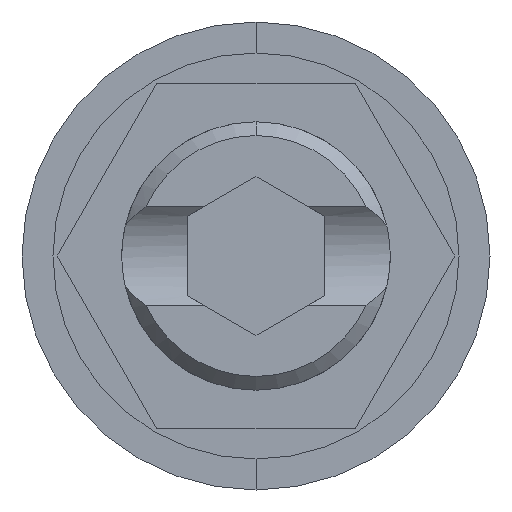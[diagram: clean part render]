
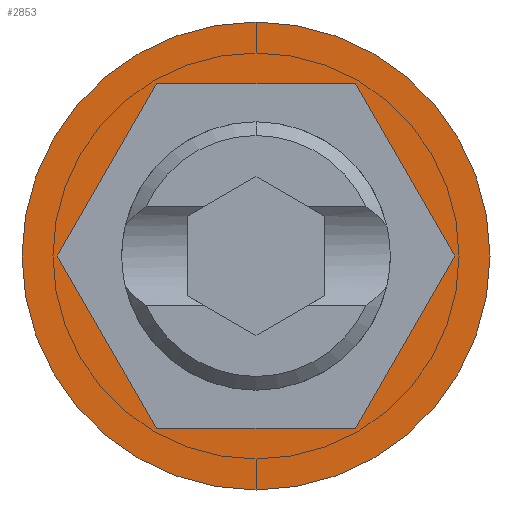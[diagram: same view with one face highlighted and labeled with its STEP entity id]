
A CAD part, front view. The second image highlights one B-rep face of the part: STEP entity #2853.
In plain terms, the highlighted planar face has unit normal (0, -1, 0).
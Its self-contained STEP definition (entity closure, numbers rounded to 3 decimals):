
#60 = VERTEX_POINT ( 'NONE', #2171 ) ;
#210 = AXIS2_PLACEMENT_3D ( 'NONE', #719, #1042, #3409 ) ;
#237 = VECTOR ( 'NONE', #3009, 1000. ) ;
#312 = LINE ( 'NONE', #2729, #3781 ) ;
#422 = LINE ( 'NONE', #2084, #2165 ) ;
#448 = LINE ( 'NONE', #1752, #3880 ) ;
#719 = CARTESIAN_POINT ( 'NONE',  ( 0., 0., 0. ) ) ;
#843 = EDGE_LOOP ( 'NONE', ( #4173, #1502, #3107, #1312, #2997, #1858 ) ) ;
#852 = VECTOR ( 'NONE', #2980, 1000. ) ;
#865 = FACE_OUTER_BOUND ( 'NONE', #1455, .T. ) ;
#944 = EDGE_CURVE ( 'NONE', #4237, #1217, #3203, .T. ) ;
#993 = ORIENTED_EDGE ( 'NONE', *, *, #944, .T. ) ;
#1032 = EDGE_CURVE ( 'NONE', #3378, #60, #448, .T. ) ;
#1042 = DIRECTION ( 'NONE',  ( 0., -1., 0. ) ) ;
#1119 = LINE ( 'NONE', #3995, #237 ) ;
#1207 = CARTESIAN_POINT ( 'NONE',  ( -2.887, 0., 0. ) ) ;
#1217 = VERTEX_POINT ( 'NONE', #3945 ) ;
#1263 = LINE ( 'NONE', #4248, #3754 ) ;
#1312 = ORIENTED_EDGE ( 'NONE', *, *, #2063, .F. ) ;
#1341 = DIRECTION ( 'NONE',  ( 0., -1., 0. ) ) ;
#1346 = CARTESIAN_POINT ( 'NONE',  ( 1.443, 0., 2.5 ) ) ;
#1445 = DIRECTION ( 'NONE',  ( -1., 0., 0. ) ) ;
#1455 = EDGE_LOOP ( 'NONE', ( #993, #2680 ) ) ;
#1498 = VERTEX_POINT ( 'NONE', #4068 ) ;
#1502 = ORIENTED_EDGE ( 'NONE', *, *, #1032, .F. ) ;
#1628 = CARTESIAN_POINT ( 'NONE',  ( 0., 0., -3.4 ) ) ;
#1752 = CARTESIAN_POINT ( 'NONE',  ( -2.887, 0., 0. ) ) ;
#1785 = VERTEX_POINT ( 'NONE', #1346 ) ;
#1826 = CIRCLE ( 'NONE', #3045, 3.4 ) ;
#1858 = ORIENTED_EDGE ( 'NONE', *, *, #2694, .F. ) ;
#1966 = DIRECTION ( 'NONE',  ( 0.5, 0., 0.866 ) ) ;
#2063 = EDGE_CURVE ( 'NONE', #1785, #4186, #312, .T. ) ;
#2084 = CARTESIAN_POINT ( 'NONE',  ( 1.443, 0., -2.5 ) ) ;
#2165 = VECTOR ( 'NONE', #1966, 1000. ) ;
#2171 = CARTESIAN_POINT ( 'NONE',  ( -1.443, 0., -2.5 ) ) ;
#2189 = CARTESIAN_POINT ( 'NONE',  ( 0., 0., 0. ) ) ;
#2308 = DIRECTION ( 'NONE',  ( 0., -1., 0. ) ) ;
#2394 = VERTEX_POINT ( 'NONE', #3905 ) ;
#2412 = DIRECTION ( 'NONE',  ( 0., 0., -1. ) ) ;
#2680 = ORIENTED_EDGE ( 'NONE', *, *, #3838, .T. ) ;
#2694 = EDGE_CURVE ( 'NONE', #2394, #1498, #422, .T. ) ;
#2729 = CARTESIAN_POINT ( 'NONE',  ( 1.443, 0., 2.5 ) ) ;
#2853 = ADVANCED_FACE ( 'NONE', ( #3773, #865 ), #3056, .T. ) ;
#2980 = DIRECTION ( 'NONE',  ( -0.5, 0., -0.866 ) ) ;
#2997 = ORIENTED_EDGE ( 'NONE', *, *, #4283, .F. ) ;
#3009 = DIRECTION ( 'NONE',  ( -0.5, 0., 0.866 ) ) ;
#3045 = AXIS2_PLACEMENT_3D ( 'NONE', #3359, #1341, #3702 ) ;
#3056 = PLANE ( 'NONE',  #210 ) ;
#3107 = ORIENTED_EDGE ( 'NONE', *, *, #3749, .F. ) ;
#3203 = CIRCLE ( 'NONE', #4053, 3.4 ) ;
#3323 = CARTESIAN_POINT ( 'NONE',  ( -1.443, 0., 2.5 ) ) ;
#3359 = CARTESIAN_POINT ( 'NONE',  ( 0., 0., 0. ) ) ;
#3378 = VERTEX_POINT ( 'NONE', #1207 ) ;
#3409 = DIRECTION ( 'NONE',  ( 0., 0., -1. ) ) ;
#3547 = LINE ( 'NONE', #3323, #852 ) ;
#3594 = EDGE_CURVE ( 'NONE', #60, #2394, #1263, .T. ) ;
#3620 = DIRECTION ( 'NONE',  ( 1., 0., 0. ) ) ;
#3702 = DIRECTION ( 'NONE',  ( 0., 0., -1. ) ) ;
#3749 = EDGE_CURVE ( 'NONE', #4186, #3378, #3547, .T. ) ;
#3754 = VECTOR ( 'NONE', #3620, 1000. ) ;
#3773 = FACE_BOUND ( 'NONE', #843, .T. ) ;
#3781 = VECTOR ( 'NONE', #1445, 1000. ) ;
#3838 = EDGE_CURVE ( 'NONE', #1217, #4237, #1826, .T. ) ;
#3839 = DIRECTION ( 'NONE',  ( 0.5, 0., -0.866 ) ) ;
#3880 = VECTOR ( 'NONE', #3839, 1000. ) ;
#3905 = CARTESIAN_POINT ( 'NONE',  ( 1.443, 0., -2.5 ) ) ;
#3945 = CARTESIAN_POINT ( 'NONE',  ( 0., 0., 3.4 ) ) ;
#3995 = CARTESIAN_POINT ( 'NONE',  ( 2.887, 0., 0. ) ) ;
#4053 = AXIS2_PLACEMENT_3D ( 'NONE', #2189, #2308, #2412 ) ;
#4068 = CARTESIAN_POINT ( 'NONE',  ( 2.887, 0., 0. ) ) ;
#4173 = ORIENTED_EDGE ( 'NONE', *, *, #3594, .F. ) ;
#4186 = VERTEX_POINT ( 'NONE', #4287 ) ;
#4237 = VERTEX_POINT ( 'NONE', #1628 ) ;
#4248 = CARTESIAN_POINT ( 'NONE',  ( -1.443, 0., -2.5 ) ) ;
#4283 = EDGE_CURVE ( 'NONE', #1498, #1785, #1119, .T. ) ;
#4287 = CARTESIAN_POINT ( 'NONE',  ( -1.443, 0., 2.5 ) ) ;
